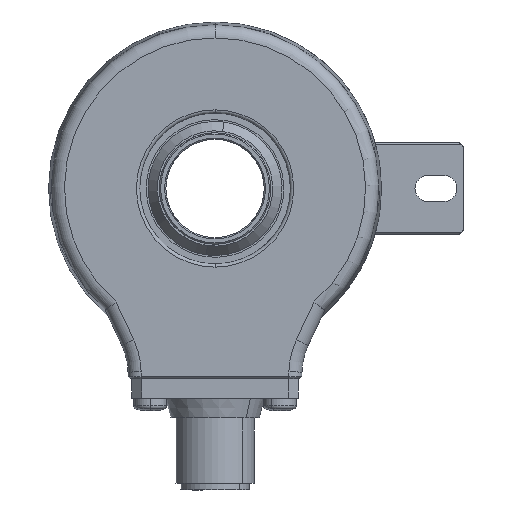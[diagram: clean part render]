
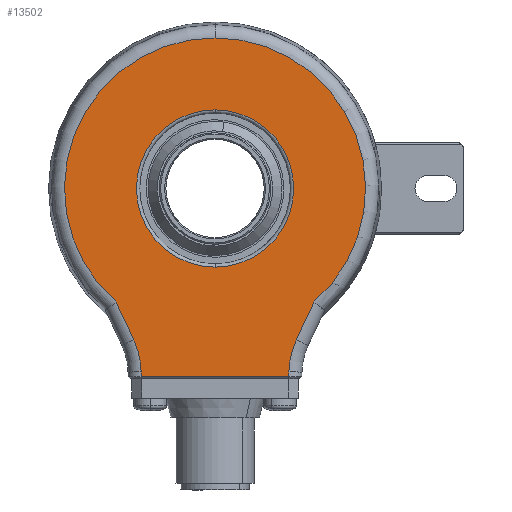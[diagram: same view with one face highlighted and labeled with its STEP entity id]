
A CAD part, left-side view. The second image highlights one B-rep face of the part: STEP entity #13502.
In plain terms, the highlighted planar face has unit normal (-1, 0, 0).
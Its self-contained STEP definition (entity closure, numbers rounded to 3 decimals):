
#5256 = DIRECTION ( 'NONE',  ( 0., -1., 0. ) ) ;
#5257 = VECTOR ( 'NONE', #5256, 1000. ) ;
#5258 = CARTESIAN_POINT ( 'NONE',  ( -21., -11.25, -28.695 ) ) ;
#5259 = LINE ( 'NONE', #5258, #5257 ) ;
#5327 = CARTESIAN_POINT ( 'NONE',  ( -21., 11.255, -28.695 ) ) ;
#5521 = CARTESIAN_POINT ( 'NONE',  ( -21., -11.255, -28.695 ) ) ;
#5581 = CIRCLE ( 'NONE', #5634, 12. ) ;
#5631 = DIRECTION ( 'NONE',  ( 0., 0., 1. ) ) ;
#5632 = DIRECTION ( 'NONE',  ( 1., 0., 0. ) ) ;
#5633 = CARTESIAN_POINT ( 'NONE',  ( -21., 0., 0. ) ) ;
#5634 = AXIS2_PLACEMENT_3D ( 'NONE', #5633, #5632, #5631 ) ;
#5758 = DIRECTION ( 'NONE',  ( 0., -0.017, 1. ) ) ;
#5760 = VECTOR ( 'NONE', #5758, 1000. ) ;
#5761 = CARTESIAN_POINT ( 'NONE',  ( -21., -11.752, -0.205 ) ) ;
#5762 = LINE ( 'NONE', #5761, #5760 ) ;
#5764 = DIRECTION ( 'NONE',  ( 0., -0.017, -1. ) ) ;
#5765 = VECTOR ( 'NONE', #5764, 1000. ) ;
#5767 = CARTESIAN_POINT ( 'NONE',  ( -21., 11.752, -0.205 ) ) ;
#5768 = LINE ( 'NONE', #5767, #5765 ) ;
#6413 = CARTESIAN_POINT ( 'NONE',  ( -21., 0., -12. ) ) ;
#7229 = CARTESIAN_POINT ( 'NONE',  ( -21., 0., 12. ) ) ;
#7230 = DIRECTION ( 'NONE',  ( 0., 0., 1. ) ) ;
#7231 = DIRECTION ( 'NONE',  ( 1., 0., 0. ) ) ;
#7233 = CARTESIAN_POINT ( 'NONE',  ( -21., 0., 0. ) ) ;
#7235 = AXIS2_PLACEMENT_3D ( 'NONE', #7233, #7231, #7230 ) ;
#7236 = CIRCLE ( 'NONE', #7235, 12. ) ;
#7583 = CARTESIAN_POINT ( 'NONE',  ( -21., 0., 22.972 ) ) ;
#7585 = DIRECTION ( 'NONE',  ( 0., 0., 1. ) ) ;
#7588 = DIRECTION ( 'NONE',  ( -1., 0., 0. ) ) ;
#7590 = CARTESIAN_POINT ( 'NONE',  ( -21., 0., 0. ) ) ;
#7592 = AXIS2_PLACEMENT_3D ( 'NONE', #7590, #7588, #7585 ) ;
#7594 = CIRCLE ( 'NONE', #7592, 22.972 ) ;
#7625 = CARTESIAN_POINT ( 'NONE',  ( -21., 15.091, -17.32 ) ) ;
#8188 = CARTESIAN_POINT ( 'NONE',  ( -21., -11.268, -27.974 ) ) ;
#8387 = DIRECTION ( 'NONE',  ( 0., 0., 1. ) ) ;
#8388 = DIRECTION ( 'NONE',  ( -1., 0., 0. ) ) ;
#8389 = CARTESIAN_POINT ( 'NONE',  ( -21., 0., 0. ) ) ;
#8390 = AXIS2_PLACEMENT_3D ( 'NONE', #8389, #8388, #8387 ) ;
#8391 = CIRCLE ( 'NONE', #8390, 22.972 ) ;
#8586 = DIRECTION ( 'NONE',  ( 0., 0., 1. ) ) ;
#8587 = DIRECTION ( 'NONE',  ( 1., 0., 0. ) ) ;
#8588 = CARTESIAN_POINT ( 'NONE',  ( -21., -23.266, -28.183 ) ) ;
#8589 = AXIS2_PLACEMENT_3D ( 'NONE', #8588, #8587, #8586 ) ;
#8590 = CIRCLE ( 'NONE', #8589, 12. ) ;
#8613 = CARTESIAN_POINT ( 'NONE',  ( -21., -12.39, -23.112 ) ) ;
#8645 = DIRECTION ( 'NONE',  ( 0., -0.423, 0.906 ) ) ;
#8646 = VECTOR ( 'NONE', #8645, 1000. ) ;
#8647 = CARTESIAN_POINT ( 'NONE',  ( -21., -14.953, -17.615 ) ) ;
#8648 = LINE ( 'NONE', #8647, #8646 ) ;
#8789 = CARTESIAN_POINT ( 'NONE',  ( -21., -15.091, -17.32 ) ) ;
#9034 = FACE_OUTER_BOUND ( 'NONE', #12984, .T. ) ;
#9035 = CARTESIAN_POINT ( 'NONE',  ( -21., 12.39, -23.112 ) ) ;
#9036 = FACE_BOUND ( 'NONE', #12997, .T. ) ;
#9109 = DIRECTION ( 'NONE',  ( 0., 0., 1. ) ) ;
#9111 = DIRECTION ( 'NONE',  ( 1., 0., 0. ) ) ;
#9112 = CARTESIAN_POINT ( 'NONE',  ( -21., 0., 0. ) ) ;
#9114 = AXIS2_PLACEMENT_3D ( 'NONE', #9112, #9111, #9109 ) ;
#9122 = PLANE ( 'NONE',  #9114 ) ;
#9132 = DIRECTION ( 'NONE',  ( 0., -0.423, -0.906 ) ) ;
#9133 = VECTOR ( 'NONE', #9132, 1000. ) ;
#9134 = CARTESIAN_POINT ( 'NONE',  ( -21., 12.39, -23.112 ) ) ;
#9135 = LINE ( 'NONE', #9134, #9133 ) ;
#9226 = DIRECTION ( 'NONE',  ( 0., 0., 1. ) ) ;
#9227 = DIRECTION ( 'NONE',  ( 1., 0., 0. ) ) ;
#9229 = CARTESIAN_POINT ( 'NONE',  ( -21., 23.266, -28.183 ) ) ;
#9230 = AXIS2_PLACEMENT_3D ( 'NONE', #9229, #9227, #9226 ) ;
#9231 = CIRCLE ( 'NONE', #9230, 12. ) ;
#9237 = CARTESIAN_POINT ( 'NONE',  ( -21., 11.268, -27.974 ) ) ;
#12358 = VERTEX_POINT ( 'NONE', #6413 ) ;
#12518 = EDGE_CURVE ( 'NONE', #12519, #12358, #7236, .T. ) ;
#12519 = VERTEX_POINT ( 'NONE', #7229 ) ;
#12571 = EDGE_CURVE ( 'NONE', #12572, #12586, #7594, .T. ) ;
#12572 = VERTEX_POINT ( 'NONE', #7583 ) ;
#12586 = VERTEX_POINT ( 'NONE', #7625 ) ;
#12677 = VERTEX_POINT ( 'NONE', #8188 ) ;
#12701 = EDGE_CURVE ( 'NONE', #12758, #12572, #8391, .T. ) ;
#12737 = VERTEX_POINT ( 'NONE', #8613 ) ;
#12739 = EDGE_CURVE ( 'NONE', #12677, #12737, #8590, .T. ) ;
#12745 = EDGE_CURVE ( 'NONE', #12737, #12758, #8648, .T. ) ;
#12758 = VERTEX_POINT ( 'NONE', #8789 ) ;
#12805 = VERTEX_POINT ( 'NONE', #9035 ) ;
#12807 = EDGE_CURVE ( 'NONE', #12586, #12805, #9135, .T. ) ;
#12820 = VERTEX_POINT ( 'NONE', #9237 ) ;
#12821 = EDGE_CURVE ( 'NONE', #12805, #12820, #9231, .T. ) ;
#12841 = EDGE_CURVE ( 'NONE', #12863, #12906, #5259, .T. ) ;
#12863 = VERTEX_POINT ( 'NONE', #5327 ) ;
#12906 = VERTEX_POINT ( 'NONE', #5521 ) ;
#12934 = EDGE_CURVE ( 'NONE', #12358, #12519, #5581, .T. ) ;
#12980 = EDGE_CURVE ( 'NONE', #12820, #12863, #5768, .T. ) ;
#12982 = ORIENTED_EDGE ( 'NONE', *, *, #12518, .T. ) ;
#12983 = ORIENTED_EDGE ( 'NONE', *, *, #12934, .T. ) ;
#12984 = EDGE_LOOP ( 'NONE', ( #12985, #12986, #12987, #13504, #13505, #13506, #13507, #13508, #13509 ) ) ;
#12985 = ORIENTED_EDGE ( 'NONE', *, *, #12980, .T. ) ;
#12986 = ORIENTED_EDGE ( 'NONE', *, *, #12841, .T. ) ;
#12987 = ORIENTED_EDGE ( 'NONE', *, *, #12988, .T. ) ;
#12988 = EDGE_CURVE ( 'NONE', #12906, #12677, #5762, .T. ) ;
#12997 = EDGE_LOOP ( 'NONE', ( #12982, #12983 ) ) ;
#13502 = ADVANCED_FACE ( 'NONE', ( #9036, #9034 ), #9122, .F. ) ;
#13504 = ORIENTED_EDGE ( 'NONE', *, *, #12739, .T. ) ;
#13505 = ORIENTED_EDGE ( 'NONE', *, *, #12745, .T. ) ;
#13506 = ORIENTED_EDGE ( 'NONE', *, *, #12701, .T. ) ;
#13507 = ORIENTED_EDGE ( 'NONE', *, *, #12571, .T. ) ;
#13508 = ORIENTED_EDGE ( 'NONE', *, *, #12807, .T. ) ;
#13509 = ORIENTED_EDGE ( 'NONE', *, *, #12821, .T. ) ;
